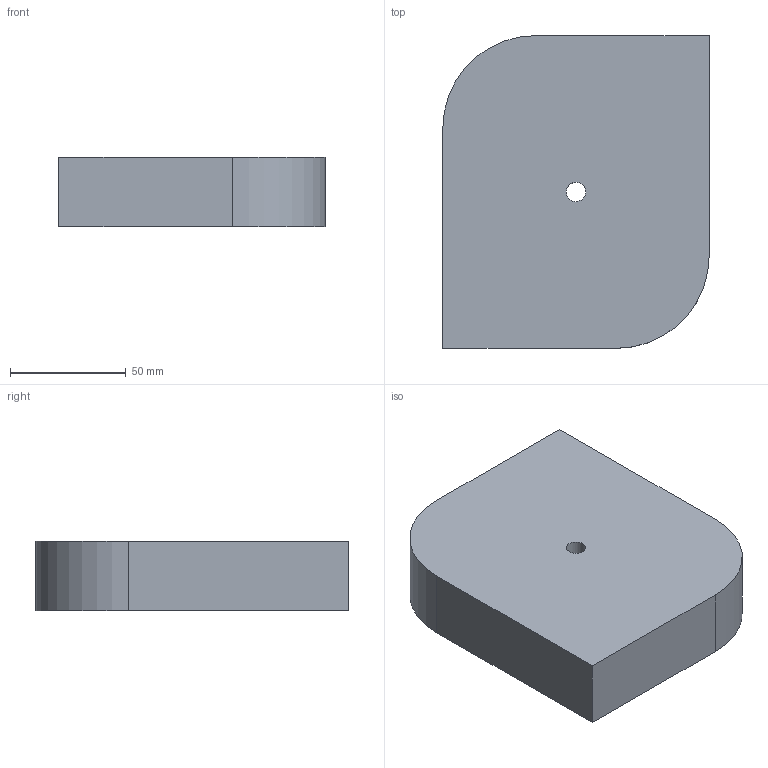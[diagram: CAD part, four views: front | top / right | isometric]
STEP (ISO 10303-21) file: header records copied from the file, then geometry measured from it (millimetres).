
FILE_DESCRIPTION(('CATIA V5 STEP Exchange'),'2;1');
FILE_NAME('C:\_Andres\UNIVERSIDAD\IQS\ASIGNATURAS\DAO\EXF\EXF-15161c\1original\Segura_Sánchez_Ej01-plano_v25.stp','2016-03-04T14:59:47+00:00',('none'),('none'),'CATIA Version 5 Release 20 SP 1 (IN-10)','CATIA V5 STEP AP203','none');
FILE_SCHEMA(('CONFIG_CONTROL_DESIGN'));
Length unit declared in the file: millimetre
Products named in the file (1): Segura_Sánchez_Ej01-plano_v25
Bounding box: 115 x 135 x 30 mm (x, y, z)
Volume: 443495.2 mm3; surface area: 44325.7 mm2
Topology: 1 solids, 1 shells, 10 faces, 24 edges, 16 vertices
Faces by surface type: plane 6, cylinder 4
Entity records: 333 total; most frequent: CARTESIAN_POINT 51, ORIENTED_EDGE 48, DIRECTION 44, EDGE_CURVE 24, AXIS2_PLACEMENT_3D 19, VECTOR 16, LINE 16, VERTEX_POINT 16
